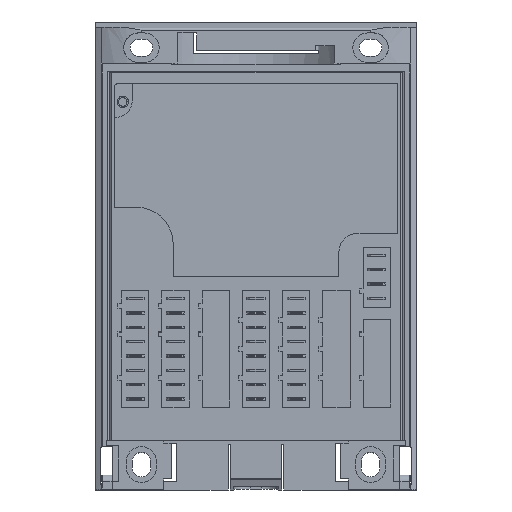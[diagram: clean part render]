
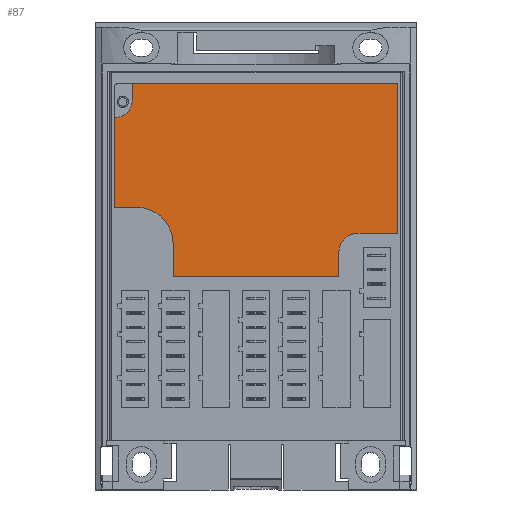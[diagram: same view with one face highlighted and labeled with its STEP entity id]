
A CAD part, top view. The second image highlights one B-rep face of the part: STEP entity #87.
In plain terms, the highlighted planar face has unit normal (0, 0, 1).
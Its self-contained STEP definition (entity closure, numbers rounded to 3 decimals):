
#87 = ADVANCED_FACE( '', ( #872 ), #873, .T. );
#872 = FACE_OUTER_BOUND( '', #2588, .T. );
#873 = PLANE( '', #2589 );
#2588 = EDGE_LOOP( '', ( #4370, #4371, #4372, #4373, #4374, #4375, #4376, #4377, #4378, #4379, #4380, #4381, #4382 ) );
#2589 = AXIS2_PLACEMENT_3D( '', #4383, #4384, #4385 );
#4370 = ORIENTED_EDGE( '', *, *, #10556, .T. );
#4371 = ORIENTED_EDGE( '', *, *, #10557, .T. );
#4372 = ORIENTED_EDGE( '', *, *, #10558, .T. );
#4373 = ORIENTED_EDGE( '', *, *, #10559, .F. );
#4374 = ORIENTED_EDGE( '', *, *, #10560, .T. );
#4375 = ORIENTED_EDGE( '', *, *, #10561, .T. );
#4376 = ORIENTED_EDGE( '', *, *, #10562, .T. );
#4377 = ORIENTED_EDGE( '', *, *, #10563, .F. );
#4378 = ORIENTED_EDGE( '', *, *, #10564, .T. );
#4379 = ORIENTED_EDGE( '', *, *, #10565, .T. );
#4380 = ORIENTED_EDGE( '', *, *, #10566, .T. );
#4381 = ORIENTED_EDGE( '', *, *, #10567, .T. );
#4382 = ORIENTED_EDGE( '', *, *, #10568, .F. );
#4383 = CARTESIAN_POINT( '', ( -41.475, 4.15, 17.2 ) );
#4384 = DIRECTION( '', ( 0., 0., 1. ) );
#4385 = DIRECTION( '', ( 1., 0., 0. ) );
#10556 = EDGE_CURVE( '', #12552, #12553, #12554, .T. );
#10557 = EDGE_CURVE( '', #12553, #12555, #12556, .T. );
#10558 = EDGE_CURVE( '', #12555, #12557, #12558, .T. );
#10559 = EDGE_CURVE( '', #12559, #12557, #12560, .T. );
#10560 = EDGE_CURVE( '', #12559, #12561, #12562, .T. );
#10561 = EDGE_CURVE( '', #12561, #12563, #12564, .T. );
#10562 = EDGE_CURVE( '', #12563, #12565, #12566, .T. );
#10563 = EDGE_CURVE( '', #12567, #12565, #12568, .T. );
#10564 = EDGE_CURVE( '', #12567, #12569, #12570, .T. );
#10565 = EDGE_CURVE( '', #12569, #12571, #12572, .T. );
#10566 = EDGE_CURVE( '', #12571, #12573, #12574, .T. );
#10567 = EDGE_CURVE( '', #12573, #12575, #12576, .T. );
#10568 = EDGE_CURVE( '', #12552, #12575, #12577, .T. );
#12552 = VERTEX_POINT( '', #15886 );
#12553 = VERTEX_POINT( '', #15887 );
#12554 = LINE( '', #15888, #15889 );
#12555 = VERTEX_POINT( '', #15890 );
#12556 = LINE( '', #15891, #15892 );
#12557 = VERTEX_POINT( '', #15893 );
#12558 = LINE( '', #15894, #15895 );
#12559 = VERTEX_POINT( '', #15896 );
#12560 = CIRCLE( '', #15897, 12.65 );
#12561 = VERTEX_POINT( '', #15898 );
#12562 = LINE( '', #15899, #15900 );
#12563 = VERTEX_POINT( '', #15901 );
#12564 = LINE( '', #15902, #15903 );
#12565 = VERTEX_POINT( '', #15904 );
#12566 = LINE( '', #15905, #15906 );
#12567 = VERTEX_POINT( '', #15907 );
#12568 = CIRCLE( '', #15908, 6.65 );
#12569 = VERTEX_POINT( '', #15909 );
#12570 = LINE( '', #15910, #15911 );
#12571 = VERTEX_POINT( '', #15912 );
#12572 = LINE( '', #15913, #15914 );
#12573 = VERTEX_POINT( '', #15915 );
#12574 = LINE( '', #15916, #15917 );
#12575 = VERTEX_POINT( '', #15918 );
#12576 = LINE( '', #15919, #15920 );
#12577 = CIRCLE( '', #15921, 5.92 );
#15886 = CARTESIAN_POINT( '', ( -48.975, 48.04, 17.2 ) );
#15887 = CARTESIAN_POINT( '', ( -49.225, 48.04, 17.2 ) );
#15888 = CARTESIAN_POINT( '', ( -48.975, 48.04, 17.2 ) );
#15889 = VECTOR( '', #20919, 1000. );
#15890 = CARTESIAN_POINT( '', ( -49.225, 16.8, 17.2 ) );
#15891 = CARTESIAN_POINT( '', ( -49.225, 48.04, 17.2 ) );
#15892 = VECTOR( '', #20920, 1000. );
#15893 = CARTESIAN_POINT( '', ( -41.475, 16.8, 17.2 ) );
#15894 = CARTESIAN_POINT( '', ( -49.225, 16.8, 17.2 ) );
#15895 = VECTOR( '', #20921, 1000. );
#15896 = CARTESIAN_POINT( '', ( -28.825, 4.15, 17.2 ) );
#15897 = AXIS2_PLACEMENT_3D( '', #20922, #20923, #20924 );
#15898 = CARTESIAN_POINT( '', ( -28.825, -7.2, 17.2 ) );
#15899 = CARTESIAN_POINT( '', ( -28.825, 4.15, 17.2 ) );
#15900 = VECTOR( '', #20925, 1000. );
#15901 = CARTESIAN_POINT( '', ( 28.825, -7.2, 17.2 ) );
#15902 = CARTESIAN_POINT( '', ( -28.825, -7.2, 17.2 ) );
#15903 = VECTOR( '', #20926, 1000. );
#15904 = CARTESIAN_POINT( '', ( 28.825, 1.15, 17.2 ) );
#15905 = CARTESIAN_POINT( '', ( 28.825, -7.2, 17.2 ) );
#15906 = VECTOR( '', #20927, 1000. );
#15907 = CARTESIAN_POINT( '', ( 35.475, 7.8, 17.2 ) );
#15908 = AXIS2_PLACEMENT_3D( '', #20928, #20929, #20930 );
#15909 = CARTESIAN_POINT( '', ( 49.225, 7.8, 17.2 ) );
#15910 = CARTESIAN_POINT( '', ( 35.475, 7.8, 17.2 ) );
#15911 = VECTOR( '', #20931, 1000. );
#15912 = CARTESIAN_POINT( '', ( 49.225, 59.75, 17.2 ) );
#15913 = CARTESIAN_POINT( '', ( 49.225, 7.8, 17.2 ) );
#15914 = VECTOR( '', #20932, 1000. );
#15915 = CARTESIAN_POINT( '', ( -43.055, 59.75, 17.2 ) );
#15916 = CARTESIAN_POINT( '', ( 49.225, 59.75, 17.2 ) );
#15917 = VECTOR( '', #20933, 1000. );
#15918 = CARTESIAN_POINT( '', ( -43.055, 53.96, 17.2 ) );
#15919 = CARTESIAN_POINT( '', ( -43.055, 59.75, 17.2 ) );
#15920 = VECTOR( '', #20934, 1000. );
#15921 = AXIS2_PLACEMENT_3D( '', #20935, #20936, #20937 );
#20919 = DIRECTION( '', ( -1., 0., 0. ) );
#20920 = DIRECTION( '', ( 0., -1., 0. ) );
#20921 = DIRECTION( '', ( 1., 0., 0. ) );
#20922 = CARTESIAN_POINT( '', ( -41.475, 4.15, 17.2 ) );
#20923 = DIRECTION( '', ( 0., 0., 1. ) );
#20924 = DIRECTION( '', ( 1., 0., 0. ) );
#20925 = DIRECTION( '', ( 0., -1., 0. ) );
#20926 = DIRECTION( '', ( 1., 0., 0. ) );
#20927 = DIRECTION( '', ( 0., 1., 0. ) );
#20928 = CARTESIAN_POINT( '', ( 35.475, 1.15, 17.2 ) );
#20929 = DIRECTION( '', ( 0., 0., 1. ) );
#20930 = DIRECTION( '', ( 1., 0., 0. ) );
#20931 = DIRECTION( '', ( 1., 0., 0. ) );
#20932 = DIRECTION( '', ( 0., 1., 0. ) );
#20933 = DIRECTION( '', ( -1., 0., 0. ) );
#20934 = DIRECTION( '', ( 0., -1., 0. ) );
#20935 = CARTESIAN_POINT( '', ( -48.975, 53.96, 17.2 ) );
#20936 = DIRECTION( '', ( 0., 0., 1. ) );
#20937 = DIRECTION( '', ( 1., 0., 0. ) );
